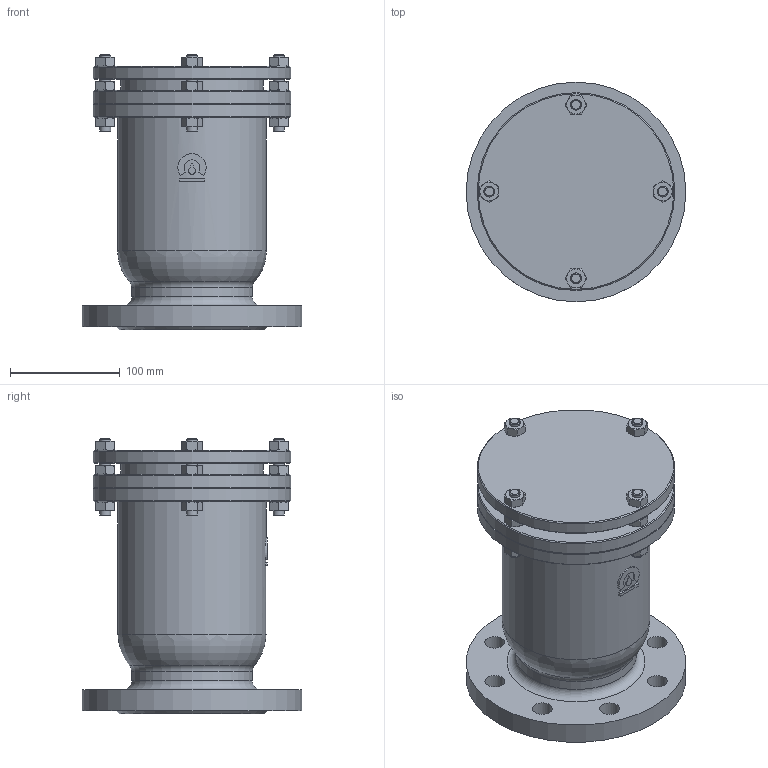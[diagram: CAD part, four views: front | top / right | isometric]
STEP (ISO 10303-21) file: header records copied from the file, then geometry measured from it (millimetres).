
FILE_DESCRIPTION(('STEP AP203'), '1');
FILE_NAME('Òèï A10F - Âîçäóõîîòâîä÷èê îäíîêàìåðíûé DN80', '', ('UNSPECIFIED'), ('UNSPECIFIED'), 'ASCON STEP Converter 1.6', 'ASCON Math Kernel', '');
FILE_SCHEMA(('CONFIG_CONTROL_DESIGN'));
Length unit declared in the file: millimetre
Products named in the file (1): Тип A10F
Bounding box: 200 x 200 x 251 mm (x, y, z)
Volume: 3157281.9 mm3; surface area: 275732.1 mm2
Topology: 1 solids, 1 shells, 304 faces, 657 edges, 386 vertices
Faces by surface type: cone 153, plane 112, cylinder 36, torus 3
Full cylindrical faces by diameter (mm): 10 x12, 18 x8, 80 x1, 110 x1, 130 x1, 135 x1, 178 x1, 180 x3, 200 x1
Entity records: 16987 total; most frequent: CARTESIAN_POINT 8478, ORIENTED_EDGE 1232, DIRECTION 1153, EDGE_CURVE 616, AXIS2_PLACEMENT_3D 529, EDGE_LOOP 400, VERTEX_POINT 386, FACE_BOUND 318
